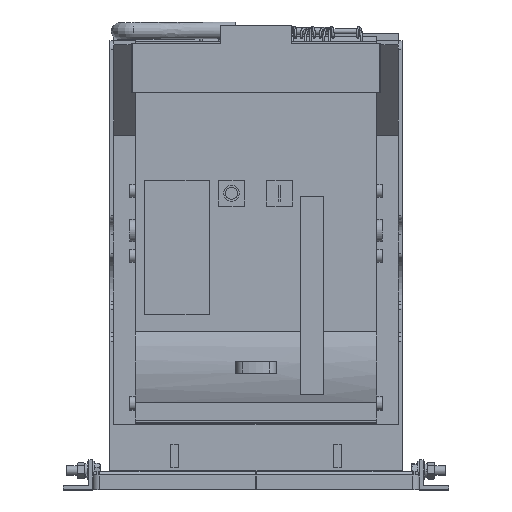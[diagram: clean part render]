
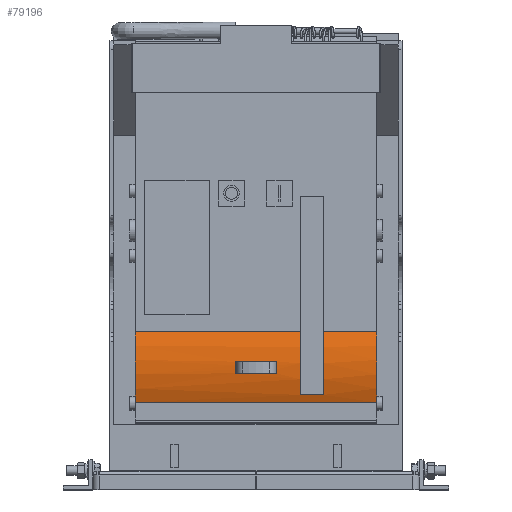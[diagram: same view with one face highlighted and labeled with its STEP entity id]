
A CAD part, top view. The second image highlights one B-rep face of the part: STEP entity #79196.
In plain terms, the highlighted cylindrical face has radius 104 mm (diameter 208 mm), a partial arc.
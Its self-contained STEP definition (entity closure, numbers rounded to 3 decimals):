
#760 = AXIS2_PLACEMENT_3D ( 'NONE', #126572, #11132, #43517 ) ;
#1551 = CARTESIAN_POINT ( 'NONE',  ( -22., 109.8, 224.202 ) ) ;
#3935 = LINE ( 'NONE', #102905, #130086 ) ;
#6429 = ORIENTED_EDGE ( 'NONE', *, *, #122496, .F. ) ;
#6847 = ORIENTED_EDGE ( 'NONE', *, *, #106759, .F. ) ;
#7532 = LINE ( 'NONE', #125716, #78731 ) ;
#8012 = CARTESIAN_POINT ( 'NONE',  ( 130.5, 154.625, 218. ) ) ;
#8576 = AXIS2_PLACEMENT_3D ( 'NONE', #48499, #68816, #90119 ) ;
#9433 = ORIENTED_EDGE ( 'NONE', *, *, #55398, .F. ) ;
#11132 = DIRECTION ( 'NONE',  ( -1., 0., 0. ) ) ;
#12471 = CARTESIAN_POINT ( 'NONE',  ( 22., 122.3, 224.473 ) ) ;
#12964 = VERTEX_POINT ( 'NONE', #31406 ) ;
#15367 = CIRCLE ( 'NONE', #123831, 104. ) ;
#15392 = DIRECTION ( 'NONE',  ( 1., 0., 0. ) ) ;
#17133 = CARTESIAN_POINT ( 'NONE',  ( -130.5, 154.625, 218. ) ) ;
#19942 = CARTESIAN_POINT ( 'NONE',  ( 73., 118.3, 120.55 ) ) ;
#23198 = ORIENTED_EDGE ( 'NONE', *, *, #120184, .T. ) ;
#23373 = VERTEX_POINT ( 'NONE', #78960 ) ;
#27988 = CARTESIAN_POINT ( 'NONE',  ( -22., 122.3, 224.473 ) ) ;
#31406 = CARTESIAN_POINT ( 'NONE',  ( 73., 86.3, 219.505 ) ) ;
#32464 = CARTESIAN_POINT ( 'NONE',  ( 22., 109.8, 224.202 ) ) ;
#32631 = CIRCLE ( 'NONE', #44424, 104. ) ;
#34697 = EDGE_CURVE ( 'NONE', #35582, #114308, #32631, .T. ) ;
#35023 = CARTESIAN_POINT ( 'NONE',  ( 48., 154.625, 218. ) ) ;
#35582 = VERTEX_POINT ( 'NONE', #45441 ) ;
#36213 = VECTOR ( 'NONE', #97687, 1000. ) ;
#36634 = DIRECTION ( 'NONE',  ( 0., 1., 0. ) ) ;
#37009 = VERTEX_POINT ( 'NONE', #27988 ) ;
#41250 = EDGE_CURVE ( 'NONE', #96557, #35582, #76347, .T. ) ;
#41595 = VECTOR ( 'NONE', #82806, 1000. ) ;
#42786 = ORIENTED_EDGE ( 'NONE', *, *, #135280, .T. ) ;
#43517 = DIRECTION ( 'NONE',  ( 0., 0., -1. ) ) ;
#44424 = AXIS2_PLACEMENT_3D ( 'NONE', #46236, #56864, #131148 ) ;
#45088 = CIRCLE ( 'NONE', #54416, 104. ) ;
#45441 = CARTESIAN_POINT ( 'NONE',  ( 130.5, 78.3, 216.55 ) ) ;
#46236 = CARTESIAN_POINT ( 'NONE',  ( 130.5, 118.3, 120.55 ) ) ;
#46388 = DIRECTION ( 'NONE',  ( 0., 0., -1. ) ) ;
#48499 = CARTESIAN_POINT ( 'NONE',  ( 22., 118.3, 120.55 ) ) ;
#48850 = ORIENTED_EDGE ( 'NONE', *, *, #122448, .F. ) ;
#49751 = LINE ( 'NONE', #129354, #36213 ) ;
#51098 = CARTESIAN_POINT ( 'NONE',  ( 48., 86.3, 219.505 ) ) ;
#52948 = EDGE_CURVE ( 'NONE', #23373, #12964, #85920, .T. ) ;
#54416 = AXIS2_PLACEMENT_3D ( 'NONE', #122844, #58792, #36634 ) ;
#55398 = EDGE_CURVE ( 'NONE', #23373, #114308, #112842, .T. ) ;
#56864 = DIRECTION ( 'NONE',  ( -1., 0., 0. ) ) ;
#57362 = DIRECTION ( 'NONE',  ( 1., 0., 0. ) ) ;
#58700 = FACE_BOUND ( 'NONE', #91924, .T. ) ;
#58792 = DIRECTION ( 'NONE',  ( -1., 0., 0. ) ) ;
#60710 = DIRECTION ( 'NONE',  ( -1., 0., 0. ) ) ;
#62073 = EDGE_CURVE ( 'NONE', #37009, #90986, #7532, .T. ) ;
#62431 = DIRECTION ( 'NONE',  ( 1., 0., 0. ) ) ;
#63104 = VECTOR ( 'NONE', #15392, 1000. ) ;
#67189 = DIRECTION ( 'NONE',  ( 1., 0., 0. ) ) ;
#68816 = DIRECTION ( 'NONE',  ( 1., 0., 0. ) ) ;
#73761 = VERTEX_POINT ( 'NONE', #35023 ) ;
#76347 = LINE ( 'NONE', #91333, #63104 ) ;
#78731 = VECTOR ( 'NONE', #113585, 1000. ) ;
#78960 = CARTESIAN_POINT ( 'NONE',  ( 73., 154.625, 218. ) ) ;
#79196 = ADVANCED_FACE ( 'NONE', ( #58700, #118464 ), #128490, .T. ) ;
#80697 = EDGE_CURVE ( 'NONE', #90986, #101938, #123701, .T. ) ;
#82806 = DIRECTION ( 'NONE',  ( 1., 0., 0. ) ) ;
#84424 = ORIENTED_EDGE ( 'NONE', *, *, #80697, .T. ) ;
#85531 = CIRCLE ( 'NONE', #760, 104. ) ;
#85920 = CIRCLE ( 'NONE', #104647, 104. ) ;
#87440 = EDGE_CURVE ( 'NONE', #12964, #129233, #3935, .T. ) ;
#90119 = DIRECTION ( 'NONE',  ( 0., 0., 1. ) ) ;
#90986 = VERTEX_POINT ( 'NONE', #12471 ) ;
#91333 = CARTESIAN_POINT ( 'NONE',  ( -130.5, 78.3, 216.55 ) ) ;
#91924 = EDGE_LOOP ( 'NONE', ( #48850, #42786, #111549, #84424 ) ) ;
#93164 = EDGE_LOOP ( 'NONE', ( #9433, #101474, #123747, #23198, #6847, #6429, #117459, #121460 ) ) ;
#96557 = VERTEX_POINT ( 'NONE', #122628 ) ;
#97215 = CARTESIAN_POINT ( 'NONE',  ( -130.5, 154.625, 218. ) ) ;
#97687 = DIRECTION ( 'NONE',  ( 1., 0., 0. ) ) ;
#100067 = CARTESIAN_POINT ( 'NONE',  ( -130.5, 118.3, 120.55 ) ) ;
#101474 = ORIENTED_EDGE ( 'NONE', *, *, #52948, .T. ) ;
#101938 = VERTEX_POINT ( 'NONE', #32464 ) ;
#102905 = CARTESIAN_POINT ( 'NONE',  ( -130.5, 86.3, 219.505 ) ) ;
#104647 = AXIS2_PLACEMENT_3D ( 'NONE', #19942, #62431, #114417 ) ;
#106759 = EDGE_CURVE ( 'NONE', #125064, #73761, #108681, .T. ) ;
#108681 = LINE ( 'NONE', #97215, #115321 ) ;
#111549 = ORIENTED_EDGE ( 'NONE', *, *, #62073, .T. ) ;
#112842 = LINE ( 'NONE', #114893, #41595 ) ;
#113585 = DIRECTION ( 'NONE',  ( 1., 0., 0. ) ) ;
#114308 = VERTEX_POINT ( 'NONE', #8012 ) ;
#114417 = DIRECTION ( 'NONE',  ( 0., -1., 0. ) ) ;
#114893 = CARTESIAN_POINT ( 'NONE',  ( -130.5, 154.625, 218. ) ) ;
#115321 = VECTOR ( 'NONE', #57362, 1000. ) ;
#117459 = ORIENTED_EDGE ( 'NONE', *, *, #41250, .T. ) ;
#118464 = FACE_OUTER_BOUND ( 'NONE', #93164, .T. ) ;
#120184 = EDGE_CURVE ( 'NONE', #129233, #73761, #45088, .T. ) ;
#120464 = CARTESIAN_POINT ( 'NONE',  ( -130.5, 118.3, 120.55 ) ) ;
#121460 = ORIENTED_EDGE ( 'NONE', *, *, #34697, .T. ) ;
#122448 = EDGE_CURVE ( 'NONE', #122732, #101938, #49751, .T. ) ;
#122496 = EDGE_CURVE ( 'NONE', #96557, #125064, #15367, .T. ) ;
#122628 = CARTESIAN_POINT ( 'NONE',  ( -130.5, 78.3, 216.55 ) ) ;
#122732 = VERTEX_POINT ( 'NONE', #1551 ) ;
#122775 = DIRECTION ( 'NONE',  ( 0., 0., 1. ) ) ;
#122844 = CARTESIAN_POINT ( 'NONE',  ( 48., 118.3, 120.55 ) ) ;
#123701 = CIRCLE ( 'NONE', #8576, 104. ) ;
#123747 = ORIENTED_EDGE ( 'NONE', *, *, #87440, .T. ) ;
#123831 = AXIS2_PLACEMENT_3D ( 'NONE', #120464, #131187, #122775 ) ;
#125064 = VERTEX_POINT ( 'NONE', #17133 ) ;
#125716 = CARTESIAN_POINT ( 'NONE',  ( -130.5, 122.3, 224.473 ) ) ;
#126572 = CARTESIAN_POINT ( 'NONE',  ( -22., 118.3, 120.55 ) ) ;
#128490 = CYLINDRICAL_SURFACE ( 'NONE', #131054, 104. ) ;
#129233 = VERTEX_POINT ( 'NONE', #51098 ) ;
#129354 = CARTESIAN_POINT ( 'NONE',  ( -130.5, 109.8, 224.202 ) ) ;
#130086 = VECTOR ( 'NONE', #60710, 1000. ) ;
#131054 = AXIS2_PLACEMENT_3D ( 'NONE', #100067, #67189, #46388 ) ;
#131148 = DIRECTION ( 'NONE',  ( 0., 0., 1. ) ) ;
#131187 = DIRECTION ( 'NONE',  ( -1., 0., 0. ) ) ;
#135280 = EDGE_CURVE ( 'NONE', #122732, #37009, #85531, .T. ) ;
